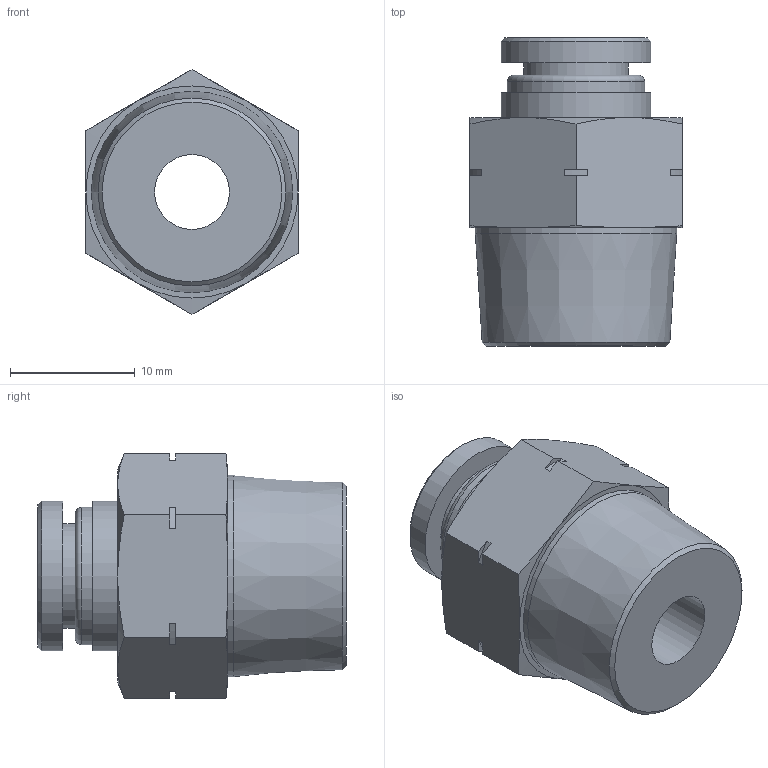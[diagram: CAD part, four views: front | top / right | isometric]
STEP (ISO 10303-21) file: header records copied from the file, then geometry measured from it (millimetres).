
FILE_DESCRIPTION(/* description */ (''),/* implementation_level */ '2;1');
FILE_NAME(/* name */ 'LXH11 0008 N3.stp',/* time_stamp */ '2026-04-19T14:50:08+02:00',/* author */ ('freju'),/* organization */ (''),/* preprocessor_version */ 'ST-DEVELOPER v20.1',/* originating_system */ 'Autodesk Inventor 2026',/* authorisation */ '');
FILE_SCHEMA (('AUTOMOTIVE_DESIGN { 1 0 10303 214 3 1 1 }'));
Length unit declared in the file: millimetre
Products named in the file (1): LXH11 0008 N3
Bounding box: 17 x 24.7 x 19.63 mm (x, y, z)
Volume: 3706.4 mm3; surface area: 2247.8 mm2
Topology: 1 solids, 1 shells, 55 faces, 128 edges, 81 vertices
Faces by surface type: plane 26, cone 15, cylinder 13, torus 1
Full cylindrical faces by diameter (mm): 6 x1, 8 x1, 8.4 x1, 11 x1, 12 x2, 16.126 x1
Entity records: 1587 total; most frequent: CARTESIAN_POINT 313, DIRECTION 262, ORIENTED_EDGE 256, EDGE_CURVE 128, AXIS2_PLACEMENT_3D 102, VERTEX_POINT 81, EDGE_LOOP 63, LINE 58
